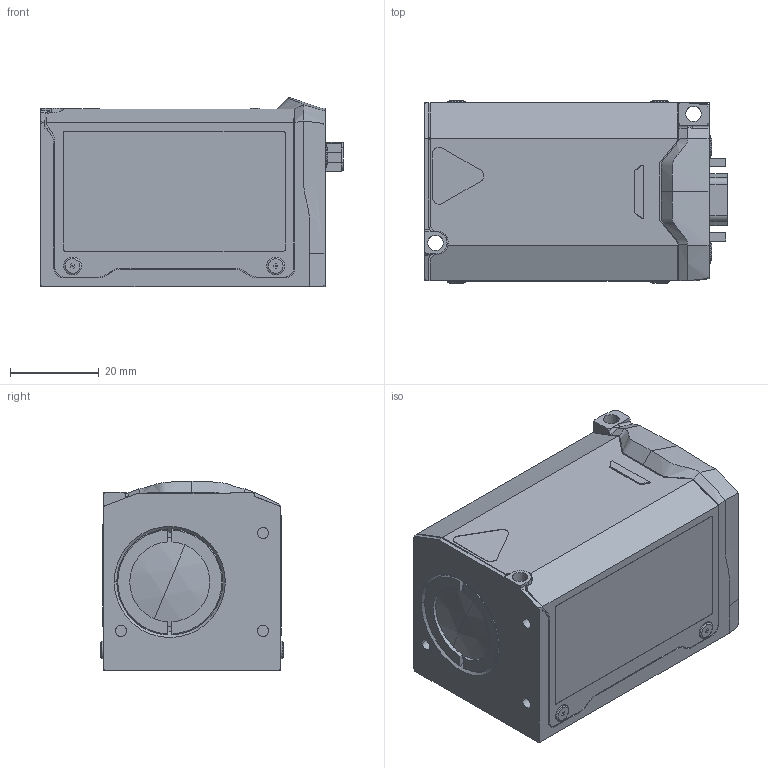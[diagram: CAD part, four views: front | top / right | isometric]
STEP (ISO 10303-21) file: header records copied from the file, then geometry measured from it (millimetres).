
FILE_DESCRIPTION (( 'STEP AP203' ), '1' );
FILE_NAME ('H410-175R_for_Web.STEP', '2022-11-24T04:45:35', ( '' ), ( '' ), 'SwSTEP 2.0', 'SolidWorks 2017', '' );
FILE_SCHEMA (( 'CONFIG_CONTROL_DESIGN' ));
Length unit declared in the file: millimetre
Products named in the file (1): H410-175R_for_Web
Bounding box: 68.15 x 41 x 42.66 mm (x, y, z)
Volume: 100281.1 mm3; surface area: 18862.8 mm2
Topology: 3 solids, 22 shells, 593 faces, 1506 edges, 971 vertices
Faces by surface type: plane 331, cylinder 188, cone 52, bspline 14, sphere 4, torus 4
Entity records: 19193 total; most frequent: CARTESIAN_POINT 4590, DIRECTION 3051, ORIENTED_EDGE 2976, EDGE_CURVE 1488, AXIS2_PLACEMENT_3D 1038, VECTOR 975, LINE 975, VERTEX_POINT 971
